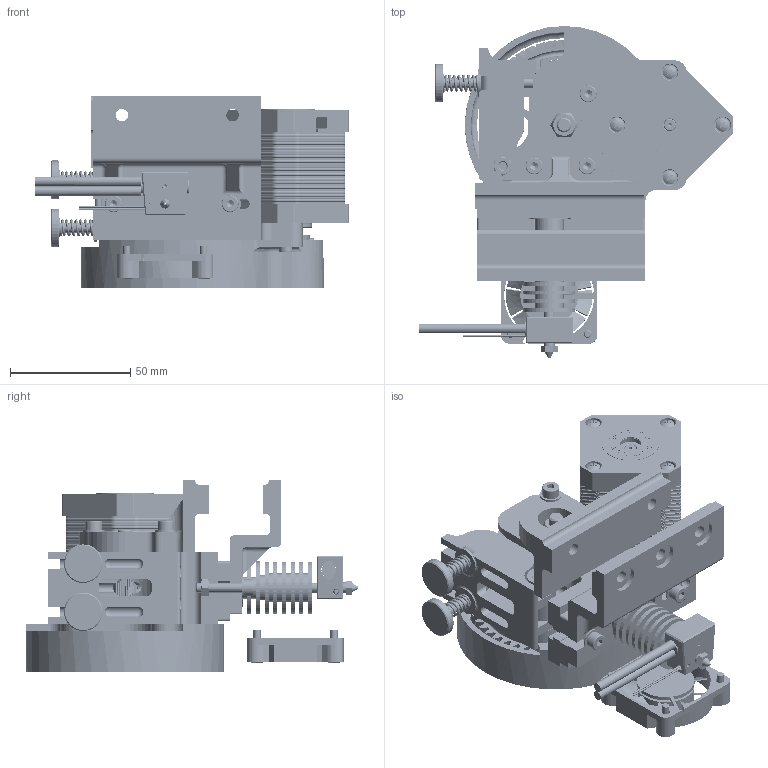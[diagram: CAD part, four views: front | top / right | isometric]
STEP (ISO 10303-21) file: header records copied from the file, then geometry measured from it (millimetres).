
FILE_DESCRIPTION((''),'2;1');
FILE_NAME('EXTRUDER-BODY','2015-03-05T',(''),(''),'','','');
FILE_SCHEMA(('AUTOMOTIVE_DESIGN { 1 0 10303 214 1 1 1 1 }'));
Products named in the file (76): STOUT-ALFER-BOTTOM_5; STOUT-PLATE-GROOVEMOUNT_3; HEATER-BLOCK_2; HEATER-BARREL_2; NOZZLE-300-04_2; HEATSINK_MK3_3_2; FAN40X40-BODY_2; FAN40X40_ROTOR_2_1; FAN40X40_ROTOR_2_2; FAN40X40_ROTOR_2_3; FAN40X40_ROTOR_2_4; FAN40X40_ROTOR_2_5; FAN40X40_ROTOR_2_6; FAN40X40_ROTOR_2_7; FAN40X40_ROTOR_2_8; FAN40X40_ROTOR_2_9; FAN40X40_ROTOR_2_10; FAN40X40_ROTOR_2_ASM; FAN40X40-ASSEMBLY_ASM_2_ASM; HEATERCARTRIDGE_6_20_2; DIN_EN_ISO_4026-M3X3-45H_2; RESISTOR_2; DIN_EN_ISO_4026-M2X2-45H_2; DIN_EN_ISO_4762_M3X10_2; SUNBURN-ASSEMBLY_ASM_2_ASM; STOUT-EXTRUDER-BODY-6_5; STOUT-ALFER-TOP_2; DIN_EN_ISO_4032_M4_2; DIN_EN_ISO_7089-4_2; PRT0001; DIN_EN_ISO_4762_M4X20_1; STOUT-COUNTERFORT_2; BEARING-636_2Z_1; RAMPA_RM_1; PRT0002; PRT0003; PRT0004; DIN_EN_ISO_4762-M4X40_2; STOUT-GEAR-SPACER_1; STOUT-GEAR-HUGE_2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
Assembly tree (102 placements, depth 5):
  EXTRUDER-BODY_TOP_5_TOP
    STOUT-ALFER-BOTTOM_5
    STOUT-PLATE-GROOVEMOUNT_3
    SUNBURN-ASSEMBLY_ASM_2_ASM
      HEATER-BLOCK_2
      HEATER-BARREL_2
      NOZZLE-300-04_2
      HEATSINK_MK3_3_2
      FAN40X40-ASSEMBLY_ASM_2_ASM
        FAN40X40-BODY_2
        FAN40X40_ROTOR_2_ASM
          FAN40X40_ROTOR_2_1
          FAN40X40_ROTOR_2_2
          FAN40X40_ROTOR_2_3
          FAN40X40_ROTOR_2_4
          FAN40X40_ROTOR_2_5
          FAN40X40_ROTOR_2_6
          FAN40X40_ROTOR_2_7
          FAN40X40_ROTOR_2_8
          FAN40X40_ROTOR_2_9
          FAN40X40_ROTOR_2_10
      HEATERCARTRIDGE_6_20_2
      DIN_EN_ISO_4026-M3X3-45H_2
      RESISTOR_2
      DIN_EN_ISO_4026-M2X2-45H_2
      DIN_EN_ISO_4762_M3X10_2  x4
    STOUT-EXTRUDER-BODY-6_5
    STOUT-ALFER-TOP_2
    DIN_EN_ISO_4032_M4_2  x6
    DIN_EN_ISO_7089-4_2
    PRT0001
    DIN_EN_ISO_4762_M4X20_1  x2
    STOUT-COUNTERFORT_2
    BEARING-636_2Z_1  x2
    RAMPA_RM_1
    PRT0002
    PRT0003
    PRT0004
    DIN_EN_ISO_4762-M4X40_2  x3
    STOUT-GEAR-SPACER_1
    STOUT-GEAR-HUGE_2
    DIN_EN_ISO_4017-M6X55_1
    DIN_985-M6_1
    SPRING-ASSEMBLY_ASM_1_ASM  x2
      DIN_976-M4-60_1
      DIN_467-M4_1
      STOUT-SPRING-14_2
      DIN_EN_ISO_7093-1-4_1
    DIN_985-M4_1  x4
    STOUT-GEAR-PROTECTION_1
    DIN_EN_ISO_4762-M4X30_2
    SMALL-GEAR_ASM_1_ASM
      STOUT-GEAR-SMALL-6_3
      DIN_934_M3_1
      PRT0005
      PRT0006
      DIN_EN_ISO_4762-M3X6_1  x3
    NEMA17-48_ASM_2_ASM
      PLATE-TOP_3
      NMB_R-1650HH_ASM_2_ASM  x2
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Bounding box: 130.28 x 138 x 79.75 mm (x, y, z)
Volume: 273649.2 mm3; surface area: 164720.9 mm2
Topology: 106 solids, 106 shells, 8206 faces, 18477 edges, 10529 vertices
Faces by surface type: cylinder 3387, plane 1963, torus 1766, bspline 521, cone 379, extrusion 144, sphere 46
Entity records: 282438 total; most frequent: CARTESIAN_POINT 62019, DIRECTION 37050, ORIENTED_EDGE 33626, EDGE_CURVE 16813, PRESENTATION_STYLE_ASSIGNMENT 16218, STYLED_ITEM 16182, CURVE_STYLE 16038, AXIS2_PLACEMENT_3D 15007
